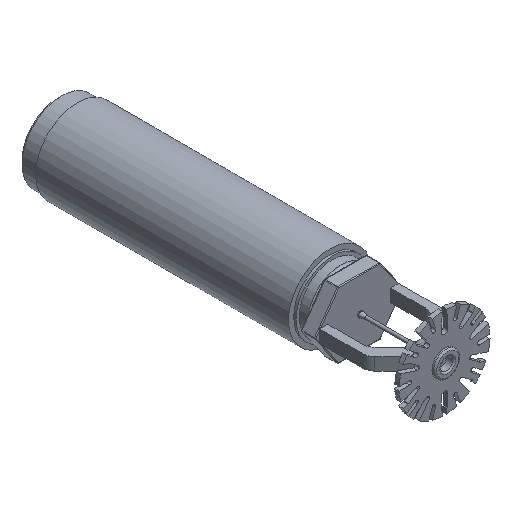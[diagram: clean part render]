
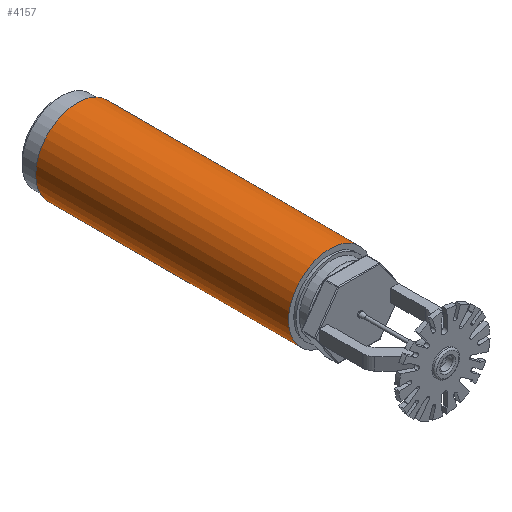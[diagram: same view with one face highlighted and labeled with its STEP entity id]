
A CAD part, isometric view. The second image highlights one B-rep face of the part: STEP entity #4157.
In plain terms, the highlighted cylindrical face has radius 16.701 mm (diameter 33.401 mm), a full revolution.
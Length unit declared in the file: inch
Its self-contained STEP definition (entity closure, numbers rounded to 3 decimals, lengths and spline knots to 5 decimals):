
#92=LINE('',#6204,#436);
#436=VECTOR('',#4955,0.6575);
#780=CYLINDRICAL_SURFACE('',#4459,0.6575);
#886=FACE_OUTER_BOUND('',#1117,.T.);
#1117=EDGE_LOOP('',(#2625,#2626,#2627,#2628,#2629,#2630));
#1358=CIRCLE('',#4451,0.6575);
#1359=CIRCLE('',#4452,0.6575);
#1362=CIRCLE('',#4457,0.6575);
#1363=CIRCLE('',#4458,0.6575);
#1588=VERTEX_POINT('',#6188);
#1589=VERTEX_POINT('',#6189);
#1592=VERTEX_POINT('',#6199);
#1593=VERTEX_POINT('',#6200);
#1988=EDGE_CURVE('',#1588,#1589,#1358,.T.);
#1989=EDGE_CURVE('',#1589,#1588,#1359,.T.);
#1993=EDGE_CURVE('',#1592,#1593,#1362,.T.);
#1994=EDGE_CURVE('',#1593,#1592,#1363,.T.);
#1995=EDGE_CURVE('',#1589,#1593,#92,.T.);
#2625=ORIENTED_EDGE('',*,*,#1988,.F.);
#2626=ORIENTED_EDGE('',*,*,#1989,.F.);
#2627=ORIENTED_EDGE('',*,*,#1995,.T.);
#2628=ORIENTED_EDGE('',*,*,#1994,.T.);
#2629=ORIENTED_EDGE('',*,*,#1993,.T.);
#2630=ORIENTED_EDGE('',*,*,#1995,.F.);
#4157=ADVANCED_FACE('',(#886),#780,.T.);
#4451=AXIS2_PLACEMENT_3D('',#6190,#4936,#4937);
#4452=AXIS2_PLACEMENT_3D('',#6191,#4938,#4939);
#4457=AXIS2_PLACEMENT_3D('',#6201,#4949,#4950);
#4458=AXIS2_PLACEMENT_3D('',#6202,#4951,#4952);
#4459=AXIS2_PLACEMENT_3D('',#6203,#4953,#4954);
#4936=DIRECTION('center_axis',(0.,-1.,0.));
#4937=DIRECTION('ref_axis',(1.,0.,0.));
#4938=DIRECTION('center_axis',(0.,-1.,0.));
#4939=DIRECTION('ref_axis',(1.,0.,0.));
#4949=DIRECTION('center_axis',(0.,-1.,0.));
#4950=DIRECTION('ref_axis',(1.,0.,0.));
#4951=DIRECTION('center_axis',(0.,-1.,0.));
#4952=DIRECTION('ref_axis',(1.,0.,0.));
#4953=DIRECTION('center_axis',(0.,-1.,0.));
#4954=DIRECTION('ref_axis',(-1.,0.,0.));
#4955=DIRECTION('',(0.,1.,0.));
#6188=CARTESIAN_POINT('',(-0.6575,1.8625,0.));
#6189=CARTESIAN_POINT('',(0.6575,1.8625,0.));
#6190=CARTESIAN_POINT('Origin',(0.,1.8625,0.));
#6191=CARTESIAN_POINT('Origin',(0.,1.8625,0.));
#6199=CARTESIAN_POINT('',(-0.6575,5.8625,0.));
#6200=CARTESIAN_POINT('',(0.6575,5.8625,0.));
#6201=CARTESIAN_POINT('Origin',(0.,5.8625,0.));
#6202=CARTESIAN_POINT('Origin',(0.,5.8625,0.));
#6203=CARTESIAN_POINT('Origin',(0.,3.8625,0.));
#6204=CARTESIAN_POINT('',(0.6575,3.8625,0.));
